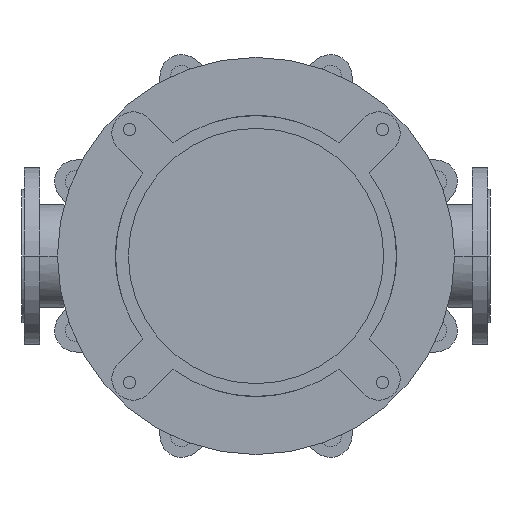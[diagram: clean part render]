
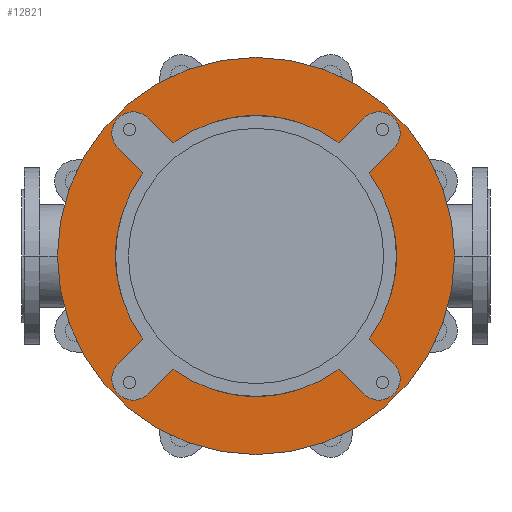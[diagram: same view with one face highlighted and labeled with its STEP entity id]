
A CAD part, front view. The second image highlights one B-rep face of the part: STEP entity #12821.
In plain terms, the highlighted planar face has unit normal (0, -1, 0).
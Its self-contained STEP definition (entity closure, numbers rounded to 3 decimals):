
#2522=CARTESIAN_POINT('',(0.,-25.,0.));
#2523=DIRECTION('',(0.,1.,0.));
#2524=DIRECTION('',(0.592,0.,-0.806));
#2525=AXIS2_PLACEMENT_3D('',#2522,#2523,#2524);
#2540=CARTESIAN_POINT('',(0.,-25.,0.));
#2541=DIRECTION('',(0.,1.,0.));
#2542=DIRECTION('',(0.806,0.,0.592));
#2543=AXIS2_PLACEMENT_3D('',#2540,#2541,#2542);
#2567=CARTESIAN_POINT('',(0.,-25.,0.));
#2568=DIRECTION('',(0.,1.,0.));
#2569=DIRECTION('',(-0.806,0.,-0.592));
#2570=AXIS2_PLACEMENT_3D('',#2567,#2568,#2569);
#2576=CARTESIAN_POINT('',(0.,-25.,0.));
#2577=DIRECTION('',(0.,1.,0.));
#2578=DIRECTION('',(-0.592,0.,0.806));
#2579=AXIS2_PLACEMENT_3D('',#2576,#2577,#2578);
#2754=CARTESIAN_POINT('',(0.,-25.,0.));
#2755=DIRECTION('',(0.,-1.,0.));
#2756=DIRECTION('',(-1.,0.,0.));
#2757=AXIS2_PLACEMENT_3D('',#2754,#2755,#2756);
#2759=CARTESIAN_POINT('',(0.,-25.,0.));
#2760=DIRECTION('',(0.,1.,0.));
#2761=DIRECTION('',(-1.,0.,0.));
#2762=AXIS2_PLACEMENT_3D('',#2759,#2760,#2761);
#2764=CARTESIAN_POINT('',(-173.241,-25.,173.241));
#2765=DIRECTION('',(0.,-1.,0.));
#2766=DIRECTION('',(0.707,0.,0.707));
#2767=AXIS2_PLACEMENT_3D('',#2764,#2765,#2766);
#2769=DIRECTION('',(0.707,0.,-0.707));
#2770=VECTOR('',#2769,49.286);
#2771=CARTESIAN_POINT('',(-194.454,-25.,152.028));
#2772=LINE('',#2771,#2770);
#2773=DIRECTION('',(-0.707,0.,-0.707));
#2774=VECTOR('',#2773,49.286);
#2775=CARTESIAN_POINT('',(-159.604,-25.,-117.178));
#2776=LINE('',#2775,#2774);
#2777=CARTESIAN_POINT('',(-173.241,-25.,-173.241));
#2778=DIRECTION('',(0.,-1.,0.));
#2779=DIRECTION('',(-0.707,0.,0.707));
#2780=AXIS2_PLACEMENT_3D('',#2777,#2778,#2779);
#2782=DIRECTION('',(0.707,0.,0.707));
#2783=VECTOR('',#2782,49.286);
#2784=CARTESIAN_POINT('',(-152.028,-25.,-194.454));
#2785=LINE('',#2784,#2783);
#2786=DIRECTION('',(0.707,0.,-0.707));
#2787=VECTOR('',#2786,49.286);
#2788=CARTESIAN_POINT('',(117.178,-25.,-159.604));
#2789=LINE('',#2788,#2787);
#2790=CARTESIAN_POINT('',(173.241,-25.,-173.241));
#2791=DIRECTION('',(0.,-1.,0.));
#2792=DIRECTION('',(-0.707,0.,-0.707));
#2793=AXIS2_PLACEMENT_3D('',#2790,#2791,#2792);
#2795=DIRECTION('',(-0.707,0.,0.707));
#2796=VECTOR('',#2795,49.286);
#2797=CARTESIAN_POINT('',(194.454,-25.,-152.028));
#2798=LINE('',#2797,#2796);
#2799=DIRECTION('',(0.707,0.,0.707));
#2800=VECTOR('',#2799,49.286);
#2801=CARTESIAN_POINT('',(159.604,-25.,117.178));
#2802=LINE('',#2801,#2800);
#2803=CARTESIAN_POINT('',(173.241,-25.,173.241));
#2804=DIRECTION('',(0.,-1.,0.));
#2805=DIRECTION('',(0.707,0.,-0.707));
#2806=AXIS2_PLACEMENT_3D('',#2803,#2804,#2805);
#2808=DIRECTION('',(-0.707,0.,-0.707));
#2809=VECTOR('',#2808,49.286);
#2810=CARTESIAN_POINT('',(152.028,-25.,194.454));
#2811=LINE('',#2810,#2809);
#2812=DIRECTION('',(-0.707,0.,0.707));
#2813=VECTOR('',#2812,49.286);
#2814=CARTESIAN_POINT('',(-117.178,-25.,159.604));
#2815=LINE('',#2814,#2813);
#8334=CARTESIAN_POINT('',(-280.,-25.,0.));
#8335=CARTESIAN_POINT('',(280.,-25.,0.));
#8336=VERTEX_POINT('',#8334);
#8337=VERTEX_POINT('',#8335);
#8358=CARTESIAN_POINT('',(-194.454,-25.,-152.028));
#8359=CARTESIAN_POINT('',(-152.028,-25.,-194.454));
#8360=VERTEX_POINT('',#8358);
#8361=VERTEX_POINT('',#8359);
#8362=CARTESIAN_POINT('',(-117.178,-25.,-159.604));
#8363=VERTEX_POINT('',#8362);
#8364=CARTESIAN_POINT('',(-159.604,-25.,-117.178));
#8365=VERTEX_POINT('',#8364);
#8374=CARTESIAN_POINT('',(152.028,-25.,-194.454));
#8375=CARTESIAN_POINT('',(194.454,-25.,-152.028));
#8376=VERTEX_POINT('',#8374);
#8377=VERTEX_POINT('',#8375);
#8378=CARTESIAN_POINT('',(159.604,-25.,-117.178));
#8379=VERTEX_POINT('',#8378);
#8380=CARTESIAN_POINT('',(117.178,-25.,-159.604));
#8381=VERTEX_POINT('',#8380);
#8390=CARTESIAN_POINT('',(194.454,-25.,152.028));
#8391=CARTESIAN_POINT('',(152.028,-25.,194.454));
#8392=VERTEX_POINT('',#8390);
#8393=VERTEX_POINT('',#8391);
#8394=CARTESIAN_POINT('',(117.178,-25.,159.604));
#8395=VERTEX_POINT('',#8394);
#8396=CARTESIAN_POINT('',(159.604,-25.,117.178));
#8397=VERTEX_POINT('',#8396);
#8406=CARTESIAN_POINT('',(-152.028,-25.,194.454));
#8407=CARTESIAN_POINT('',(-194.454,-25.,152.028));
#8408=VERTEX_POINT('',#8406);
#8409=VERTEX_POINT('',#8407);
#8410=CARTESIAN_POINT('',(-159.604,-25.,117.178));
#8411=VERTEX_POINT('',#8410);
#8412=CARTESIAN_POINT('',(-117.178,-25.,159.604));
#8413=VERTEX_POINT('',#8412);
#12781=CARTESIAN_POINT('',(0.,-25.,0.));
#12782=DIRECTION('',(0.,-1.,0.));
#12783=DIRECTION('',(-1.,0.,0.));
#12784=AXIS2_PLACEMENT_3D('',#12781,#12782,#12783);
#12785=PLANE('',#12784);
#12787=ORIENTED_EDGE('',*,*,#12786,.F.);
#12789=ORIENTED_EDGE('',*,*,#12788,.T.);
#12790=EDGE_LOOP('',(#12787,#12789));
#12791=FACE_OUTER_BOUND('',#12790,.F.);
#12793=ORIENTED_EDGE('',*,*,#12792,.T.);
#12795=ORIENTED_EDGE('',*,*,#12794,.T.);
#12796=ORIENTED_EDGE('',*,*,#12734,.F.);
#12798=ORIENTED_EDGE('',*,*,#12797,.T.);
#12800=ORIENTED_EDGE('',*,*,#12799,.T.);
#12802=ORIENTED_EDGE('',*,*,#12801,.T.);
#12803=ORIENTED_EDGE('',*,*,#12687,.F.);
#12804=ORIENTED_EDGE('',*,*,#12771,.T.);
#12806=ORIENTED_EDGE('',*,*,#12805,.T.);
#12808=ORIENTED_EDGE('',*,*,#12807,.T.);
#12809=ORIENTED_EDGE('',*,*,#12708,.F.);
#12811=ORIENTED_EDGE('',*,*,#12810,.T.);
#12813=ORIENTED_EDGE('',*,*,#12812,.T.);
#12815=ORIENTED_EDGE('',*,*,#12814,.T.);
#12816=ORIENTED_EDGE('',*,*,#12752,.F.);
#12818=ORIENTED_EDGE('',*,*,#12817,.T.);
#12819=EDGE_LOOP('',(#12793,#12795,#12796,#12798,#12800,#12802,#12803,#12804,
#12806,#12808,#12809,#12811,#12813,#12815,#12816,#12818));
#12820=FACE_BOUND('',#12819,.F.);
#12821=ADVANCED_FACE('',(#12791,#12820),#12785,.T.);
#2526=CIRCLE('',#2525,198.);
#2544=CIRCLE('',#2543,198.);
#2571=CIRCLE('',#2570,198.);
#2580=CIRCLE('',#2579,198.);
#2758=CIRCLE('',#2757,280.);
#2763=CIRCLE('',#2762,280.);
#2768=CIRCLE('',#2767,30.);
#2781=CIRCLE('',#2780,30.);
#2794=CIRCLE('',#2793,30.);
#2807=CIRCLE('',#2806,30.);
#12687=EDGE_CURVE('',#8381,#8363,#2526,.T.);
#12708=EDGE_CURVE('',#8397,#8379,#2544,.T.);
#12734=EDGE_CURVE('',#8365,#8411,#2571,.T.);
#12752=EDGE_CURVE('',#8413,#8395,#2580,.T.);
#12771=EDGE_CURVE('',#8381,#8376,#2789,.T.);
#12786=EDGE_CURVE('',#8336,#8337,#2758,.T.);
#12788=EDGE_CURVE('',#8336,#8337,#2763,.T.);
#12792=EDGE_CURVE('',#8408,#8409,#2768,.T.);
#12794=EDGE_CURVE('',#8409,#8411,#2772,.T.);
#12797=EDGE_CURVE('',#8365,#8360,#2776,.T.);
#12799=EDGE_CURVE('',#8360,#8361,#2781,.T.);
#12801=EDGE_CURVE('',#8361,#8363,#2785,.T.);
#12805=EDGE_CURVE('',#8376,#8377,#2794,.T.);
#12807=EDGE_CURVE('',#8377,#8379,#2798,.T.);
#12810=EDGE_CURVE('',#8397,#8392,#2802,.T.);
#12812=EDGE_CURVE('',#8392,#8393,#2807,.T.);
#12814=EDGE_CURVE('',#8393,#8395,#2811,.T.);
#12817=EDGE_CURVE('',#8413,#8408,#2815,.T.);
